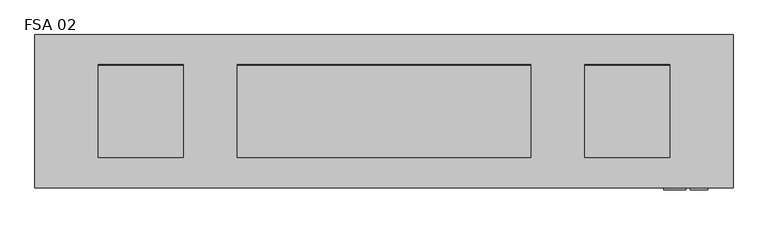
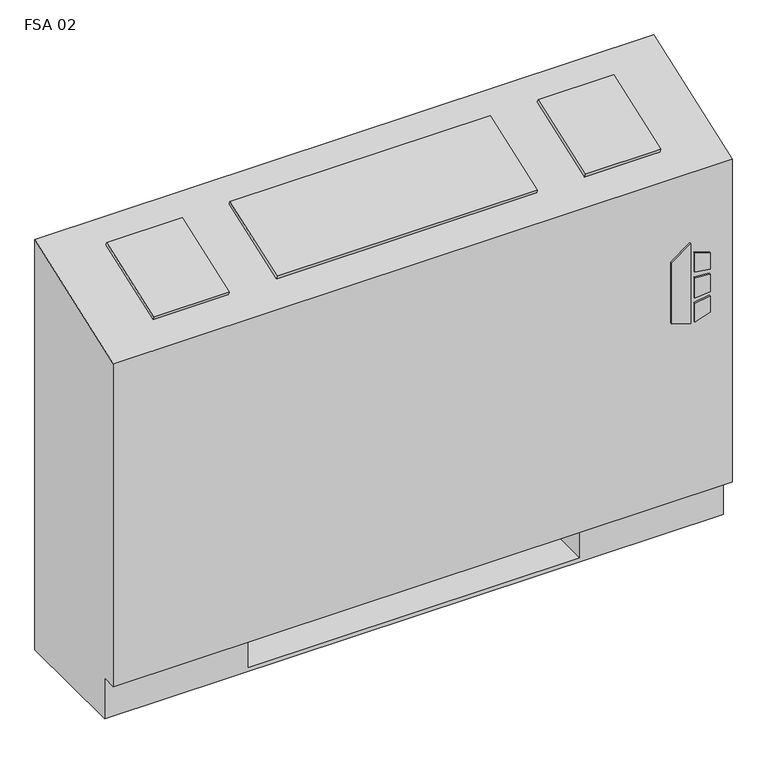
"""IFC4 building model written with IfcOpenShell, lengths in millimetres: proxy geometry, Vertical_Fan_Coil_Unit_-_FSA_-_IEC_-_2-Pipe_TS-FR_LH_2022 : FSA 02."""

from ifc_helpers import new_model, si_unit, point, frame, frame_2d, origin, place, context, project, spatial, polyline, circle_curve, trimmed, segment, composite_curve, outline, extrude, source, transform, mapped, element, save
from ifc_brep_helpers import plane_surface, revolved_surface, advanced_brep


def fsa_02_a3f4d55f(model_context):
    return source(origin(), model_context, "Body", "SolidModel", [
        extrude(outline(polyline([(391.6086829, 569.9868862), (381.6606126, 602.1602728), (523.831537, 602.1602728), (500.8095309, 569.9868862), (391.6086829, 569.9868862)])), frame((0.0, 12.7, 0.0), z_axis=(0.0, 1.0, 0.0), x_axis=(0.0, 0.0, 1.0)), (0.0, 0.0, 1.0), 3.175),
        extrude(outline(polyline([(470.6079683, 608.9186058), (467.4055757, 635.0), (496.6344168, 635.0), (504.6988318, 608.9186058), (470.6079683, 608.9186058)])), frame((0.0, 12.7, 0.0), z_axis=(0.0, 1.0, 0.0), x_axis=(0.0, 0.0, 1.0)), (0.0, 0.0, 1.0), 3.175),
        extrude(outline(polyline([(418.7444414, 635.0), (415.0789404, 608.9186058), (381.6606126, 608.9186058), (390.2948498, 635.0), (418.7444414, 635.0)])), frame((0.0, 12.7, 0.0), z_axis=(0.0, 1.0, 0.0), x_axis=(0.0, 0.0, 1.0)), (0.0, 0.0, 1.0), 3.175),
        extrude(outline(polyline([(458.0596028, 635.0), (460.3414292, 608.9186058), (424.4038806, 608.9186058), (427.1451456, 635.0), (458.0596028, 635.0)])), frame((0.0, 12.7, 0.0), z_axis=(0.0, 1.0, 0.0), x_axis=(0.0, 0.0, 1.0)), (0.0, 0.0, 1.0), 3.175),
        extrude(outline(polyline([(552.45, 223.266), (552.45, 81.534), (431.8, 81.534), (431.8, 223.266), (552.45, 223.266)])), frame((0.0, 0.0, 327.025), z_axis=(0.0, 0.0, 1.0), x_axis=(1.0, 0.0, 0.0)), (0.0, 0.0, 1.0), 260.35),
        extrude(outline(composite_curve([segment(trimmed(circle_curve(frame_2d((-190.5, 130.175)), 9.525), [point((-200.025, 130.175))], [point((-180.975, 130.175))], False, "CARTESIAN"), True, "CONTINUOUS"), segment(trimmed(circle_curve(frame_2d((-190.5, 130.175)), 9.525), [point((-180.975, 130.175))], [point((-200.025, 130.175))], False, "CARTESIAN"), True, "CONTINUOUS")], self_intersect=False)), frame((0.0, 0.0, 101.6), z_axis=(0.0, 0.0, 1.0), x_axis=(1.0, 0.0, 0.0)), (0.0, 0.0, 1.0), 25.4),
        extrude(outline(polyline([(-292.1, 63.5), (-292.1, 196.85), (-127.0, 196.85), (-127.0, 63.5), (-292.1, 63.5)])), frame((0.0, 0.0, 127.0), z_axis=(0.0, 0.0, 1.0), x_axis=(1.0, 0.0, 0.0)), (0.0, 0.0, 1.0), 50.8),
        extrude(outline(polyline([(0.0, -146.0500001), (0.0, 0.0), (127.0, 0.0), (127.0, -146.0500001), (0.0, -146.0500001)])), frame((-274.193, 200.4217127, 714.3418685), z_axis=(0.0, -0.3396444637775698, 0.9405538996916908), x_axis=(1.0, 0.0, 0.0)), (0.0, 0.0, 1.0), 6.35),
        extrude(outline(polyline([(0.0, -146.0500001), (0.0, 0.0), (438.15, 0.0), (438.15, -146.0500001), (0.0, -146.0500001)])), frame((371.475, 63.0538156, 664.7367945), z_axis=(0.0, -0.33964446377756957, 0.9405538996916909), x_axis=(-1.0, 0.0, 0.0)), (0.0, 0.0, 1.0), 6.35),
        extrude(outline(polyline([(0.0, -146.0500001), (0.0, 0.0), (127.0, 0.0), (127.0, -146.0500001), (0.0, -146.0500001)])), frame((578.993, 63.0538156, 664.7367945), z_axis=(0.0, -0.3396444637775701, 0.9405538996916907), x_axis=(-1.0, 0.0, 0.0)), (0.0, 0.0, 1.0), 6.35),
        extrude(outline(composite_curve([segment(trimmed(circle_curve(frame_2d((109.347, 456.819)), 7.9375), [point((109.347, 464.7565))], [point((109.347, 448.8815))], False, "CARTESIAN"), True, "CONTINUOUS"), segment(trimmed(circle_curve(frame_2d((109.347, 456.819)), 7.9375), [point((109.347, 448.8815))], [point((109.347, 464.7565))], False, "CARTESIAN"), True, "CONTINUOUS")], self_intersect=False)), frame((-177.8, 0.0, 0.0), z_axis=(1.0, 0.0, 0.0), x_axis=(0.0, 1.0, 0.0)), (0.0, 0.0, 1.0), 50.8),
        extrude(outline(composite_curve([segment(trimmed(circle_curve(frame_2d((157.4546, 429.4632)), 7.9375), [point((157.4546, 437.4007))], [point((157.4546, 421.5257))], False, "CARTESIAN"), True, "CONTINUOUS"), segment(trimmed(circle_curve(frame_2d((157.4546, 429.4632)), 7.9375), [point((157.4546, 421.5257))], [point((157.4546, 437.4007))], False, "CARTESIAN"), True, "CONTINUOUS")], self_intersect=False)), frame((-177.8, 0.0, 0.0), z_axis=(1.0, 0.0, 0.0), x_axis=(0.0, 1.0, 0.0)), (0.0, 0.0, 1.0), 50.8),
        advanced_brep(
        [(-368.3, 244.475, 0.0), (673.1, 244.475, 0.0), (673.1, 41.275, 0.0), (-368.3, 41.275, 0.0), (-368.3, 244.475, 730.25), (673.1, 244.475, 730.25), (431.8, 244.475, 73.025), (660.4, 244.475, 73.025), (660.4, 244.475, 654.05), (431.8, 244.475, 654.05), (431.8, 244.475, 414.8650565), (460.375, 244.475, 414.8650565), (460.375, 244.475, 385.2349435), (431.8, 244.475, 385.2349435), (431.8, 244.475, 287.3375), (460.375, 244.475, 287.3375), (460.375, 244.475, 258.7625), (431.8, 244.475, 258.7625), (431.8, 244.475, 141.2875), (460.375, 244.475, 141.2875), (460.375, 244.475, 112.7125), (431.8, 244.475, 112.7125), (-127.0, 244.475, 654.05), (-355.6, 244.475, 654.05), (-355.6, 244.475, 73.025), (-127.0, 244.475, 73.025), (-127.0, 244.475, 112.7125), (-155.575, 244.475, 112.7125), (-155.575, 244.475, 141.2875), (-127.0, 244.475, 141.2875), (-127.0, 244.475, 258.7625), (-155.575, 244.475, 258.7625), (-155.575, 244.475, 287.3375), (-127.0, 244.475, 287.3375), (-127.0, 244.475, 385.2349435), (-155.575, 244.475, 385.2349435), (-155.575, 244.475, 414.8650565), (-127.0, 244.475, 414.8650565), (450.0626, 244.475, 127.0), (438.9374, 244.475, 127.0), (450.0626, 244.475, 400.05), (438.9374, 244.475, 400.05), (450.0626, 244.475, 273.05), (438.9374, 244.475, 273.05), (-134.1374, 244.475, 127.0), (-145.2626, 244.475, 127.0), (-134.1374, 244.475, 273.05), (-145.2626, 244.475, 273.05), (-134.1374, 244.475, 400.05), (-145.2626, 244.475, 400.05), (-368.3, 41.275, 73.025), (-368.3, 15.875, 73.025), (-368.3, 15.875, 647.7), (673.1, 15.875, 73.025), (673.1, 15.875, 647.7), (673.1, 41.275, 73.025), (-127.0, 41.275, 73.025), (-127.0, 225.425, 73.025), (431.8, 225.425, 73.025), (431.8, 41.275, 73.025), (431.8, 41.275, 6.35), (-127.0, 41.275, 6.35), (431.8, 41.275, 654.05), (660.4, 41.275, 654.05), (660.4, 41.275, 73.025), (431.8, 41.275, 73.025), (-127.0, 41.275, 654.05), (-127.0, 41.275, 73.025), (-355.6, 41.275, 73.025), (-355.6, 41.275, 654.05), (431.8, 225.425, 73.025), (431.8, 238.125, 112.7125), (431.8, 238.125, 141.2875), (431.8, 238.125, 258.7625), (431.8, 238.125, 287.3375), (431.8, 238.125, 385.2349435), (431.8, 238.125, 414.8650565), (-127.0, 225.425, 73.025), (-127.0, 238.125, 414.8650565), (-127.0, 238.125, 385.2349435), (-127.0, 238.125, 287.3375), (-127.0, 238.125, 258.7625), (-127.0, 238.125, 141.2875), (-127.0, 238.125, 112.7125), (-127.0, 225.425, 6.35), (431.8, 225.425, 6.35), (460.375, 238.125, 112.7125), (460.375, 238.125, 141.2875), (438.9374, 238.125, 127.0), (450.0626, 238.125, 127.0), (460.375, 238.125, 258.7625), (460.375, 238.125, 287.3375), (438.9374, 238.125, 273.05), (450.0626, 238.125, 273.05), (460.375, 238.125, 385.2349435), (460.375, 238.125, 414.8650565), (438.9374, 238.125, 400.05), (450.0626, 238.125, 400.05), (-155.575, 238.125, 141.2875), (-155.575, 238.125, 112.7125), (-145.2626, 238.125, 127.0), (-134.1374, 238.125, 127.0), (-155.575, 238.125, 287.3375), (-155.575, 238.125, 258.7625), (-145.2626, 238.125, 273.05), (-134.1374, 238.125, 273.05), (-155.575, 238.125, 414.8650565), (-155.575, 238.125, 385.2349435), (-145.2626, 238.125, 400.05), (-134.1374, 238.125, 400.05)],
        [
            (0, 1),
            (1, 2),
            (2, 3),
            (3, 0),
            (0, 4),
            (4, 5),
            (5, 1),
            (6, 7),
            (7, 8),
            (8, 9),
            (9, 10),
            (10, 11),
            (11, 12),
            (12, 13),
            (13, 14),
            (14, 15),
            (15, 16),
            (16, 17),
            (17, 18),
            (18, 19),
            (19, 20),
            (20, 21),
            (21, 6),
            (22, 23),
            (23, 24),
            (24, 25),
            (25, 26),
            (26, 27),
            (27, 28),
            (28, 29),
            (29, 30),
            (30, 31),
            (31, 32),
            (32, 33),
            (33, 34),
            (34, 35),
            (35, 36),
            (36, 37),
            (37, 22),
            (38, 39, circle_curve(frame((444.5, 244.475, 127.0), z_axis=(0.0, -1.0, 0.0), x_axis=(-1.0, 0.0, 0.0)), 5.5626)),
            (39, 38, circle_curve(frame((444.5, 244.475, 127.0), z_axis=(0.0, -1.0, 0.0), x_axis=(-1.0, 0.0, 0.0)), 5.5626)),
            (40, 41, circle_curve(frame((444.5, 244.475, 400.05), z_axis=(0.0, -1.0, 0.0), x_axis=(-1.0, 0.0, 0.0)), 5.5626)),
            (41, 40, circle_curve(frame((444.5, 244.475, 400.05), z_axis=(0.0, -1.0, 0.0), x_axis=(-1.0, 0.0, 0.0)), 5.5626)),
            (42, 43, circle_curve(frame((444.5, 244.475, 273.05), z_axis=(0.0, -1.0, 0.0), x_axis=(-1.0, 0.0, 0.0)), 5.5626)),
            (43, 42, circle_curve(frame((444.5, 244.475, 273.05), z_axis=(0.0, -1.0, 0.0), x_axis=(-1.0, 0.0, 0.0)), 5.5626)),
            (44, 45, circle_curve(frame((-139.7, 244.475, 127.0), z_axis=(0.0, -1.0, 0.0), x_axis=(-1.0, 0.0, 0.0)), 5.5626)),
            (45, 44, circle_curve(frame((-139.7, 244.475, 127.0), z_axis=(0.0, -1.0, 0.0), x_axis=(-1.0, 0.0, 0.0)), 5.5626)),
            (46, 47, circle_curve(frame((-139.7, 244.475, 273.05), z_axis=(0.0, -1.0, 0.0), x_axis=(-1.0, 0.0, 0.0)), 5.5626)),
            (47, 46, circle_curve(frame((-139.7, 244.475, 273.05), z_axis=(0.0, -1.0, 0.0), x_axis=(-1.0, 0.0, 0.0)), 5.5626)),
            (48, 49, circle_curve(frame((-139.7, 244.475, 400.05), z_axis=(0.0, -1.0, 0.0), x_axis=(-1.0, 0.0, 0.0)), 5.5626)),
            (49, 48, circle_curve(frame((-139.7, 244.475, 400.05), z_axis=(0.0, -1.0, 0.0), x_axis=(-1.0, 0.0, 0.0)), 5.5626)),
            (3, 50),
            (50, 51),
            (51, 52),
            (52, 4),
            (51, 53),
            (53, 54),
            (54, 52),
            (5, 54),
            (53, 55),
            (55, 2),
            (50, 56),
            (56, 57),
            (57, 58),
            (58, 59),
            (59, 55),
            (59, 60),
            (60, 61),
            (61, 56),
            (62, 63),
            (63, 64),
            (64, 65),
            (65, 62),
            (66, 67),
            (67, 68),
            (68, 69),
            (69, 66),
            (65, 70),
            (70, 6),
            (21, 71),
            (71, 72),
            (72, 18),
            (17, 73),
            (73, 74),
            (74, 14),
            (13, 75),
            (75, 76),
            (76, 10),
            (9, 62),
            (64, 7),
            (63, 8),
            (69, 23),
            (22, 66),
            (68, 24),
            (67, 77),
            (77, 25),
            (37, 78),
            (78, 79),
            (79, 34),
            (33, 80),
            (80, 81),
            (81, 30),
            (29, 82),
            (82, 83),
            (83, 26),
            (57, 84),
            (84, 85),
            (85, 58),
            (85, 60),
            (84, 61),
            (71, 86),
            (86, 87),
            (87, 72),
            (88, 89, circle_curve(frame((444.5, 238.125, 127.0), z_axis=(0.0, 1.0, 0.0), x_axis=(-1.0, 0.0, 0.0)), 5.5626)),
            (89, 88, circle_curve(frame((444.5, 238.125, 127.0), z_axis=(0.0, 1.0, 0.0), x_axis=(-1.0, 0.0, 0.0)), 5.5626)),
            (73, 90),
            (90, 91),
            (91, 74),
            (92, 93, circle_curve(frame((444.5, 238.125, 273.05), z_axis=(0.0, 1.0, 0.0), x_axis=(-1.0, 0.0, 0.0)), 5.5626)),
            (93, 92, circle_curve(frame((444.5, 238.125, 273.05), z_axis=(0.0, 1.0, 0.0), x_axis=(-1.0, 0.0, 0.0)), 5.5626)),
            (75, 94),
            (94, 95),
            (95, 76),
            (96, 97, circle_curve(frame((444.5, 238.125, 400.05), z_axis=(0.0, 1.0, 0.0), x_axis=(-1.0, 0.0, 0.0)), 5.5626)),
            (97, 96, circle_curve(frame((444.5, 238.125, 400.05), z_axis=(0.0, 1.0, 0.0), x_axis=(-1.0, 0.0, 0.0)), 5.5626)),
            (98, 99),
            (99, 83),
            (82, 98),
            (100, 101, circle_curve(frame((-139.7, 238.125, 127.0), z_axis=(0.0, 1.0, 0.0), x_axis=(-1.0, 0.0, 0.0)), 5.5626)),
            (101, 100, circle_curve(frame((-139.7, 238.125, 127.0), z_axis=(0.0, 1.0, 0.0), x_axis=(-1.0, 0.0, 0.0)), 5.5626)),
            (102, 103),
            (103, 81),
            (80, 102),
            (104, 105, circle_curve(frame((-139.7, 238.125, 273.05), z_axis=(0.0, 1.0, 0.0), x_axis=(-1.0, 0.0, 0.0)), 5.5626)),
            (105, 104, circle_curve(frame((-139.7, 238.125, 273.05), z_axis=(0.0, 1.0, 0.0), x_axis=(-1.0, 0.0, 0.0)), 5.5626)),
            (106, 107),
            (107, 79),
            (78, 106),
            (108, 109, circle_curve(frame((-139.7, 238.125, 400.05), z_axis=(0.0, 1.0, 0.0), x_axis=(-1.0, 0.0, 0.0)), 5.5626)),
            (109, 108, circle_curve(frame((-139.7, 238.125, 400.05), z_axis=(0.0, 1.0, 0.0), x_axis=(-1.0, 0.0, 0.0)), 5.5626)),
            (87, 19),
            (86, 20),
            (91, 15),
            (90, 16),
            (95, 11),
            (94, 12),
            (28, 98),
            (99, 27),
            (32, 102),
            (103, 31),
            (36, 106),
            (107, 35),
            (88, 39),
            (38, 89),
            (96, 41),
            (40, 97),
            (92, 43),
            (42, 93),
            (100, 45),
            (44, 101),
            (104, 47),
            (46, 105),
            (108, 49),
            (48, 109),
        ],
        [
            plane_surface(frame((-368.3, 244.475, 0.0), z_axis=(0.0, 0.0, -1.0), x_axis=(1.0, 0.0, 0.0))),
            plane_surface(frame((673.1, 244.475, 730.25), z_axis=(0.0, 1.0, 0.0), x_axis=(0.0, 0.0, -1.0))),
            plane_surface(frame((-368.3, 244.475, 730.25), z_axis=(-1.0, 0.0, 0.0), x_axis=(0.0, 0.0, -1.0))),
            plane_surface(frame((-368.3, 15.875, 730.25), z_axis=(0.0, -1.0, 0.0), x_axis=(0.0, 0.0, -1.0))),
            plane_surface(frame((673.1, 15.875, 730.25), z_axis=(1.0, 0.0, 0.0), x_axis=(0.0, 0.0, -1.0))),
            plane_surface(frame((-368.3, 15.875, 73.025), z_axis=(0.0, 0.0, -1.0), x_axis=(1.0, 0.0, 0.0))),
            plane_surface(frame((-368.3, 41.275, 73.025), z_axis=(0.0, -1.0, 0.0), x_axis=(1.0, 0.0, 0.0))),
            plane_surface(frame((431.8, 41.275, 654.05), z_axis=(0.0, 1.0, 0.0), x_axis=(0.0, 0.0, -1.0))),
            plane_surface(frame((431.8, 41.275, 654.05), z_axis=(1.0, 0.0, 0.0), x_axis=(0.0, 1.0, 0.0))),
            plane_surface(frame((431.8, 41.275, 73.025), z_axis=(0.0, 0.0, 1.0), x_axis=(0.0, 1.0, 0.0))),
            plane_surface(frame((660.4, 41.275, 73.025), z_axis=(-1.0, 0.0, 0.0), x_axis=(0.0, 1.0, 0.0))),
            plane_surface(frame((660.4, 41.275, 654.05), z_axis=(0.0, 0.0, -1.0), x_axis=(0.0, 1.0, 0.0))),
            plane_surface(frame((-127.0, 41.275, 654.05), z_axis=(0.0, 0.0, -1.0), x_axis=(0.0, 1.0, 0.0))),
            plane_surface(frame((-355.6, 41.275, 654.05), z_axis=(1.0, 0.0, 0.0), x_axis=(0.0, 1.0, 0.0))),
            plane_surface(frame((-355.6, 41.275, 73.025), z_axis=(0.0, 0.0, 1.0), x_axis=(0.0, 1.0, 0.0))),
            plane_surface(frame((-127.0, 41.275, 73.025), z_axis=(-1.0, 0.0, 0.0), x_axis=(0.0, 1.0, 0.0))),
            plane_surface(frame((431.8, 225.425, 73.025), z_axis=(0.0, -1.0, 0.0), x_axis=(0.0, 0.0, -1.0))),
            plane_surface(frame((431.8, 225.425, 73.025), z_axis=(-1.0, 0.0, 0.0), x_axis=(0.0, -1.0, 0.0))),
            plane_surface(frame((431.8, 225.425, 6.35), z_axis=(0.0, 0.0, 1.0), x_axis=(0.0, -1.0, 0.0))),
            plane_surface(frame((-127.0, 225.425, 6.35), z_axis=(1.0, 0.0, 0.0), x_axis=(0.0, -1.0, 0.0))),
            plane_surface(frame((460.375, 238.125, 141.2875), z_axis=(0.0, -1.0, 0.0), x_axis=(-1.0, 0.0, 0.0))),
            plane_surface(frame((431.8, 244.475, 141.2875), z_axis=(0.0, 0.0, 1.0), x_axis=(0.0, -1.0, 0.0))),
            plane_surface(frame((460.375, 244.475, 141.2875), z_axis=(1.0, 0.0, 0.0), x_axis=(0.0, -1.0, 0.0))),
            plane_surface(frame((460.375, 244.475, 112.7125), z_axis=(0.0, 0.0, -1.0), x_axis=(0.0, -1.0, 0.0))),
            plane_surface(frame((431.8, 244.475, 287.3375), z_axis=(0.0, 0.0, 1.0), x_axis=(0.0, -1.0, 0.0))),
            plane_surface(frame((460.375, 244.475, 287.3375), z_axis=(1.0, 0.0, 0.0), x_axis=(0.0, -1.0, 0.0))),
            plane_surface(frame((460.375, 244.475, 258.7625), z_axis=(0.0, 0.0, -1.0), x_axis=(0.0, -1.0, 0.0))),
            plane_surface(frame((431.8, 244.475, 414.8650565), z_axis=(0.0, 0.0, 1.0), x_axis=(0.0, -1.0, 0.0))),
            plane_surface(frame((460.375, 244.475, 414.8650565), z_axis=(1.0, 0.0, 0.0), x_axis=(0.0, -1.0, 0.0))),
            plane_surface(frame((460.375, 244.475, 385.2349435), z_axis=(0.0, 0.0, -1.0), x_axis=(0.0, -1.0, 0.0))),
            plane_surface(frame((-155.575, 244.475, 141.2875), z_axis=(0.0, 0.0, 1.0), x_axis=(0.0, -1.0, 0.0))),
            plane_surface(frame((-127.0, 244.475, 112.7125), z_axis=(0.0, 0.0, -1.0), x_axis=(0.0, -1.0, 0.0))),
            plane_surface(frame((-155.575, 244.475, 112.7125), z_axis=(-1.0, 0.0, 0.0), x_axis=(0.0, -1.0, 0.0))),
            plane_surface(frame((-155.575, 244.475, 287.3375), z_axis=(0.0, 0.0, 1.0), x_axis=(0.0, -1.0, 0.0))),
            plane_surface(frame((-127.0, 244.475, 258.7625), z_axis=(0.0, 0.0, -1.0), x_axis=(0.0, -1.0, 0.0))),
            plane_surface(frame((-155.575, 244.475, 258.7625), z_axis=(-1.0, 0.0, 0.0), x_axis=(0.0, -1.0, 0.0))),
            plane_surface(frame((-155.575, 244.475, 414.8650565), z_axis=(0.0, 0.0, 1.0), x_axis=(0.0, -1.0, 0.0))),
            plane_surface(frame((-127.0, 244.475, 385.2349435), z_axis=(0.0, 0.0, -1.0), x_axis=(0.0, -1.0, 0.0))),
            plane_surface(frame((-155.575, 244.475, 385.2349435), z_axis=(-1.0, 0.0, 0.0), x_axis=(0.0, -1.0, 0.0))),
            revolved_surface(polyline([(438.9374, 238.125, 127.0), (438.9374, 244.475, 127.0)]), (444.5, 244.475, 127.0), (0.0, -1.0, 0.0)),
            revolved_surface(polyline([(438.9374, 238.125, 400.05), (438.9374, 244.475, 400.05)]), (444.5, 244.475, 400.05), (0.0, -1.0, 0.0)),
            revolved_surface(polyline([(438.9374, 238.125, 273.05), (438.9374, 244.475, 273.05)]), (444.5, 244.475, 273.05), (0.0, -1.0, 0.0)),
            revolved_surface(polyline([(-145.2626, 238.125, 127.0), (-145.2626, 244.475, 127.0)]), (-139.7, 244.475, 127.0), (0.0, -1.0, 0.0)),
            revolved_surface(polyline([(-145.2626, 238.125, 273.05), (-145.2626, 244.475, 273.05)]), (-139.7, 244.475, 273.05), (0.0, -1.0, 0.0)),
            revolved_surface(polyline([(-145.2626, 238.125, 400.05), (-145.2626, 244.475, 400.05)]), (-139.7, 244.475, 400.05), (0.0, -1.0, 0.0)),
            plane_surface(frame((-368.3, 244.475, 730.25), z_axis=(0.0, -0.33964446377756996, 0.9405538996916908), x_axis=(1.0, 0.0, 0.0))),
        ],
        [
            (0, [[1, 2, 3, 4]]),
            (1, [[-1, 5, 6, 7], [8, 9, 10, 11, 12, 13, 14, 15, 16, 17, 18, 19, 20, 21, 22, 23], [24, 25, 26, 27, 28, 29, 30, 31, 32, 33, 34, 35, 36, 37, 38, 39], [40, 41], [42, 43], [44, 45], [46, 47], [48, 49], [50, 51]]),
            (2, [[-5, -4, 52, 53, 54, 55]]),
            (3, [[56, 57, 58, -54]]),
            (4, [[-7, 59, -57, 60, 61, -2]]),
            (5, [[-53, 62, 63, 64, 65, 66, -60, -56]]),
            (6, [[-3, -61, -66, 67, 68, 69, -62, -52]]),
            (7, [[70, 71, 72, 73]]),
            (7, [[74, 75, 76, 77]]),
            (8, [[-73, 78, 79, -23, 80, 81, 82, -19, 83, 84, 85, -15, 86, 87, 88, -11, 89]]),
            (9, [[-72, 90, -8, -79, -78]]),
            (10, [[-71, 91, -9, -90]]),
            (11, [[-70, -89, -10, -91]]),
            (12, [[-77, 92, -24, 93]]),
            (13, [[-76, 94, -25, -92]]),
            (14, [[-75, 95, 96, -26, -94]]),
            (15, [[-74, -93, -39, 97, 98, 99, -35, 100, 101, 102, -31, 103, 104, 105, -27, -96, -95]]),
            (16, [[-64, 106, 107, 108]]),
            (17, [[-108, 109, -67, -65]]),
            (18, [[-107, 110, -68, -109]]),
            (19, [[-106, -63, -69, -110]]),
            (20, [[111, 112, 113, -81], [114, 115]]),
            (20, [[116, 117, 118, -84], [119, 120]]),
            (20, [[121, 122, 123, -87], [124, 125]]),
            (20, [[126, 127, -104, 128], [129, 130]]),
            (20, [[131, 132, -101, 133], [134, 135]]),
            (20, [[136, 137, -98, 138], [139, 140]]),
            (21, [[-113, 141, -20, -82]]),
            (22, [[-112, 142, -21, -141]]),
            (23, [[-111, -80, -22, -142]]),
            (24, [[-118, 143, -16, -85]]),
            (25, [[-117, 144, -17, -143]]),
            (26, [[-116, -83, -18, -144]]),
            (27, [[-123, 145, -12, -88]]),
            (28, [[-122, 146, -13, -145]]),
            (29, [[-121, -86, -14, -146]]),
            (30, [[-128, -103, -30, 147]]),
            (31, [[-127, 148, -28, -105]]),
            (32, [[-126, -147, -29, -148]]),
            (33, [[-133, -100, -34, 149]]),
            (34, [[-132, 150, -32, -102]]),
            (35, [[-131, -149, -33, -150]]),
            (36, [[-138, -97, -38, 151]]),
            (37, [[-137, 152, -36, -99]]),
            (38, [[-136, -151, -37, -152]]),
            (39, [[153, -40, 154, -114]]),
            (39, [[-153, -115, -154, -41]]),
            (40, [[155, -42, 156, -124]]),
            (40, [[-155, -125, -156, -43]]),
            (41, [[157, -44, 158, -119]]),
            (41, [[-157, -120, -158, -45]]),
            (42, [[159, -46, 160, -129]]),
            (42, [[-159, -130, -160, -47]]),
            (43, [[161, -48, 162, -134]]),
            (43, [[-161, -135, -162, -49]]),
            (44, [[163, -50, 164, -139]]),
            (44, [[-163, -140, -164, -51]]),
            (45, [[-6, -55, -58, -59]]),
        ],
    ),
    ])


if __name__ == "__main__":
    model = new_model("IFC4")
    model_context = context("Model", 3, world=origin())
    ifc_project = project(units=[si_unit("LENGTHUNIT", "METRE", prefix="MILLI")], contexts=[model_context])
    site = spatial("IfcSite", under=ifc_project)
    building = spatial("IfcBuilding", under=site)
    placement = place(None, origin())
    fsa_02_shape = fsa_02_a3f4d55f(model_context)
    element("IfcBuildingElementProxy", 1, Name="Vertical_Fan_Coil_Unit_-_FSA_-_IEC_-_2-Pipe_TS-FR_LH_2022 : FSA 02", ObjectType="Vertical_Fan_Coil_Unit_-_FSA_-_IEC_-_2-Pipe_TS-FR_LH_2022 : FSA 02", at=placement, inside=building, context=model_context, shape_type="MappedRepresentation", body=[
        mapped(fsa_02_shape, transform((0.0, 0.0, 0.0), x_axis=(1.0, 0.0, 0.0), y_axis=(0.0, 1.0, 0.0), z_axis=(0.0, 0.0, 1.0))),
    ])
    save(model, "model.ifc")
